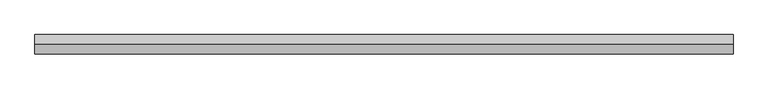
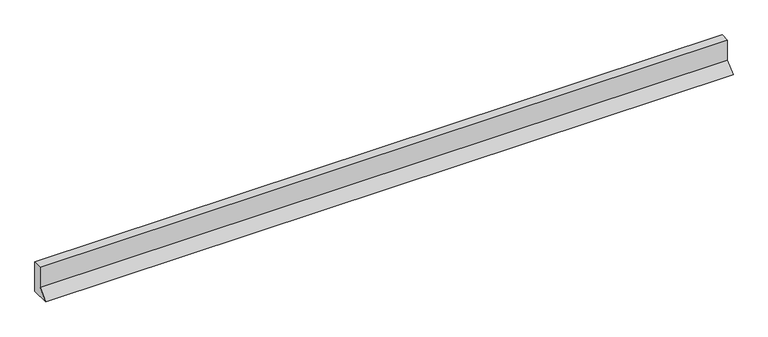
"""IFC4 building model written with IfcOpenShell, lengths in millimetres: plate geometry, ATELIERS 3S_EPURE CDB 200_HORIZONTAL : AZURO."""

import ifcopenshell
import ifcopenshell.guid

model = None  # the IFC model being written
_history = None  # IfcOwnerHistory: only IFC2X3 demands one
_inside = {}  # id of a spatial element -> (the spatial element, [elements in it])
_under = {}  # id of a project, library or spatial element -> (it, [spatial elements below it])
_declared = {}  # id of a project -> (the project, [libraries it declares])
_typed = {}  # id of a type object -> (the type object, [elements of that type])
_made_of = {}  # id of a material, layer set ... -> (it, [elements and type objects made of it])


def new_model(schema):
    """Start an empty IFC model of exactly this schema.

    Asked for "IFC4X3", IfcOpenShell would pick the latest addendum, in which some entities
    have other attributes; the version numbers below select the first issue.
    IFC2X3 requires an IfcOwnerHistory on every rooted entity: one is made here for all.
    """
    global model, _history
    if schema == "IFC4X3":
        model = ifcopenshell.file(schema_version=(4, 3, 0, 0))
    else:
        model = ifcopenshell.file(schema=schema)
    _inside.clear()
    _under.clear()
    _declared.clear()
    _typed.clear()
    _made_of.clear()
    _history = None
    if model.schema == "IFC2X3":
        org = make("IfcOrganization", Name="unknown")
        user = make(
            "IfcPersonAndOrganization",
            ThePerson=make("IfcPerson", FamilyName="unknown"),
            TheOrganization=org,
        )
        app = make(
            "IfcApplication",
            ApplicationDeveloper=org,
            Version="unknown",
            ApplicationFullName="unknown",
            ApplicationIdentifier="unknown",
        )
        _history = make(
            "IfcOwnerHistory",
            OwningUser=user,
            OwningApplication=app,
            ChangeAction="ADDED",
            CreationDate=0,
        )
    return model


def make(cls, **values):
    """One entity of the class cls with the attributes given. An attribute that is None is left unset."""
    return model.create_entity(
        cls, **{name: value for name, value in values.items() if value is not None}
    )


def rooted(cls, **values):
    """An entity with a GlobalId (a new one), such as an element, a storey or a relation."""
    return make(cls, GlobalId=ifcopenshell.guid.new(), OwnerHistory=_history, **values)


def si_unit(unit_type, name, prefix=None):
    """IfcSIUnit, for example si_unit("LENGTHUNIT", "METRE", prefix="MILLI")."""
    return make("IfcSIUnit", UnitType=unit_type, Prefix=prefix, Name=name)


def assignment(units):
    """IfcUnitAssignment: the units of a project."""
    return None if units is None else make("IfcUnitAssignment", Units=units)


def point(xyz):
    """IfcCartesianPoint."""
    return None if xyz is None else make("IfcCartesianPoint", Coordinates=xyz)


def direction(xyz):
    """IfcDirection."""
    return None if xyz is None else make("IfcDirection", DirectionRatios=xyz)


def frame(location, z_axis=None, x_axis=None):
    """IfcAxis2Placement3D, a coordinate frame: its origin and axes. An axis left out is left unset."""
    return make(
        "IfcAxis2Placement3D",
        Location=point(location),
        Axis=direction(z_axis),
        RefDirection=direction(x_axis),
    )


def origin():
    """The frame at (0, 0, 0) with its axes left unset."""
    return frame((0.0, 0.0, 0.0))


def place(relative_to, where):
    """IfcLocalPlacement: puts the frame where relative to a parent placement (None: the world)."""
    return make(
        "IfcLocalPlacement", PlacementRelTo=relative_to, RelativePlacement=where
    )


def context(
    kind, dimensions, precision=None, world=None, true_north=None, identifier=None
):
    """IfcGeometricRepresentationContext, for example the 3D "Model" context."""
    return make(
        "IfcGeometricRepresentationContext",
        ContextIdentifier=identifier,
        ContextType=kind,
        CoordinateSpaceDimension=dimensions,
        Precision=precision,
        WorldCoordinateSystem=world,
        TrueNorth=true_north,
    )


def project(units=None, contexts=None):
    """IfcProject with its units and contexts."""
    return rooted(
        "IfcProject",
        Name="project",
        RepresentationContexts=contexts,
        UnitsInContext=assignment(units),
    )


def spatial(cls, under=None, at=None, **own):
    """A site, building, storey or space (cls), placed at a placement, below another one or the project."""
    s = rooted(cls, ObjectPlacement=at, **own)
    if under is not None:
        _under.setdefault(under.id(), (under, []))[1].append(s)
    return s


def polyline(points):
    """IfcPolyline through the points."""
    return make("IfcPolyline", Points=[point(p) for p in points])


def outline(outer, holes=None, kind="AREA"):
    """IfcArbitraryClosedProfileDef: a profile drawn as a closed curve; with holes, ...WithVoids."""
    if holes is None:
        return make("IfcArbitraryClosedProfileDef", ProfileType=kind, OuterCurve=outer)
    return make(
        "IfcArbitraryProfileDefWithVoids",
        ProfileType=kind,
        OuterCurve=outer,
        InnerCurves=holes,
    )


def extrude(swept, where, along, depth):
    """IfcExtrudedAreaSolid: the profile swept, set in the frame where, extruded along a direction by depth."""
    return make(
        "IfcExtrudedAreaSolid",
        SweptArea=swept,
        Position=where,
        ExtrudedDirection=direction(along),
        Depth=depth,
    )


def shape(context_of_items, identifier, shape_type, items):
    """IfcShapeRepresentation: the items that make up one representation, for example the "Body"."""
    return make(
        "IfcShapeRepresentation",
        ContextOfItems=context_of_items,
        RepresentationIdentifier=identifier,
        RepresentationType=shape_type,
        Items=items,
    )


def source(mapping_origin, context_of_items, identifier, shape_type, items):
    """IfcRepresentationMap: a shape defined once, which mapped items show again and again."""
    return make(
        "IfcRepresentationMap",
        MappingOrigin=mapping_origin,
        MappedRepresentation=shape(context_of_items, identifier, shape_type, items),
    )


def transform(
    local_origin,
    x_axis=None,
    y_axis=None,
    z_axis=None,
    scale=None,
    scale2=None,
    scale3=None,
    uniform=True,
):
    """IfcCartesianTransformationOperator3D, or its non-uniform kind. x_axis, y_axis, z_axis: its Axis1, 2, 3."""
    if uniform:
        return make(
            "IfcCartesianTransformationOperator3D",
            Axis1=direction(x_axis),
            Axis2=direction(y_axis),
            LocalOrigin=point(local_origin),
            Scale=scale,
            Axis3=direction(z_axis),
        )
    return make(
        "IfcCartesianTransformationOperator3DnonUniform",
        Axis1=direction(x_axis),
        Axis2=direction(y_axis),
        LocalOrigin=point(local_origin),
        Scale=scale,
        Axis3=direction(z_axis),
        Scale2=scale2,
        Scale3=scale3,
    )


def mapped(mapping_source, mapping_target):
    """IfcMappedItem: shows the shape of a source again, moved by a transform."""
    return make(
        "IfcMappedItem", MappingSource=mapping_source, MappingTarget=mapping_target
    )


def made_of(thing, what):
    """Note that an element or type object is made of a material, layer set ...; save() writes the relation."""
    if what is not None:
        _made_of.setdefault(what.id(), (what, []))[1].append(thing)
    return thing


def element(
    cls,
    number,
    at=None,
    inside=None,
    cuts=None,
    type_object=None,
    material=None,
    context=None,
    identifier="Body",
    shape_type=None,
    held_by="IfcProductDefinitionShape",
    body=None,
    shapes=None,
    **own,
):
    """One element of the class cls, such as IfcWall. Its Tag is "e" and its number.

    at: its placement. inside: the storey or other place that contains it. cuts: it is an
    opening in that element (IfcRelVoidsElement). A single representation is given by context,
    identifier, shape_type and body (its items); several are given by shapes. held_by: the class
    of the entity that holds the representations. save() writes the other relations.
    """
    e = rooted(cls, Tag="e%d" % number, ObjectPlacement=at, **own)
    if body is not None:
        shapes = [shape(context, identifier, shape_type, body)]
    if shapes is not None:
        e.Representation = make(held_by, Representations=shapes)
    if inside is not None:
        _inside.setdefault(inside.id(), (inside, []))[1].append(e)
    if cuts is not None:
        rooted(
            "IfcRelVoidsElement", RelatingBuildingElement=cuts, RelatedOpeningElement=e
        )
    if type_object is not None:
        _typed.setdefault(type_object.id(), (type_object, []))[1].append(e)
    return made_of(e, material)


def aggregate(whole, parts):
    """IfcRelAggregates: a whole, such as a stair, and the parts it consists of."""
    return rooted("IfcRelAggregates", RelatingObject=whole, RelatedObjects=parts)


def save(model, path):
    """Write the relations noted so far, then the file.

    IfcRelAggregates (storeys below a building ...), IfcRelContainedInSpatialStructure (elements
    in a storey), IfcRelDefinesByType, IfcRelAssociatesMaterial and IfcRelDeclares: one each for
    every whole, place, type object, material and project.
    """
    for whole, parts in _under.values():
        aggregate(whole, parts)
    for where, things in _inside.values():
        rooted(
            "IfcRelContainedInSpatialStructure",
            RelatedElements=things,
            RelatingStructure=where,
        )
    for kind, things in _typed.values():
        rooted("IfcRelDefinesByType", RelatedObjects=things, RelatingType=kind)
    for what, things in _made_of.values():
        rooted("IfcRelAssociatesMaterial", RelatedObjects=things, RelatingMaterial=what)
    for by, libraries in _declared.values():
        rooted("IfcRelDeclares", RelatingContext=by, RelatedDefinitions=libraries)
    model.write(path)


def plate_c0c583c8(model_context):
    return source(origin(), model_context, "Body", "SweptSolid", [
        extrude(outline(polyline([(-30.0201339, 31.7071152), (-30.0201339, 100.0), (0.0, 100.0), (0.0, 0.0), (-61.727249, 0.0), (-30.0201339, 31.7071152)])), frame((-1116.75, 0.0, 0.0), z_axis=(1.0, 0.0, 0.0), x_axis=(0.0, 1.0, 0.0)), (0.0, 0.0, 1.0), 2233.5),
    ])


if __name__ == "__main__":
    model = new_model("IFC4")
    model_context = context("Model", 3, world=origin())
    ifc_project = project(units=[si_unit("LENGTHUNIT", "METRE", prefix="MILLI")], contexts=[model_context])
    site = spatial("IfcSite", under=ifc_project)
    building = spatial("IfcBuilding", under=site)
    placement = place(None, origin())
    plate_shape = plate_c0c583c8(model_context)
    element("IfcPlate", 1, ObjectType="ATELIERS 3S_EPURE CDB 200_HORIZONTAL : AZURO", at=placement, inside=building, context=model_context, shape_type="MappedRepresentation", body=[
        mapped(plate_shape, transform((0.0, 0.0, 0.0), x_axis=(1.0, 0.0, 0.0), y_axis=(0.0, 1.0, 0.0), z_axis=(0.0, 0.0, 1.0))),
    ])
    save(model, "model.ifc")
